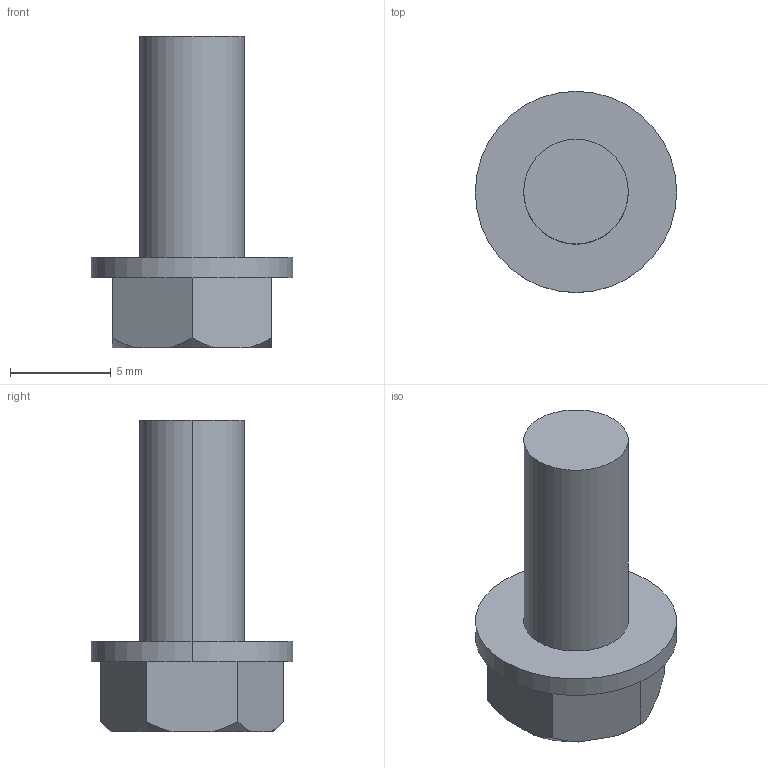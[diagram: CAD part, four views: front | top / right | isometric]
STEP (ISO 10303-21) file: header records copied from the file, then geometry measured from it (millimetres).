
FILE_DESCRIPTION (( 'STEP AP214' ), '1' );
FILE_NAME ('S 5.11.STEP', '2020-03-04T06:48:23', ( '' ), ( '' ), 'SwSTEP 2.0', 'SolidWorks 2018', '' );
FILE_SCHEMA (( 'AUTOMOTIVE_DESIGN' ));
Length unit declared in the file: millimetre
Products named in the file (1): S 5.11
Bounding box: 10 x 10 x 15.5 mm (x, y, z)
Volume: 454.4 mm3; surface area: 505.2 mm2
Topology: 1 solids, 1 shells, 34 faces, 82 edges, 51 vertices
Faces by surface type: plane 22, cone 8, cylinder 4
Entity records: 1030 total; most frequent: CARTESIAN_POINT 218, ORIENTED_EDGE 160, DIRECTION 158, EDGE_CURVE 80, AXIS2_PLACEMENT_3D 55, VERTEX_POINT 51, VECTOR 48, LINE 48
